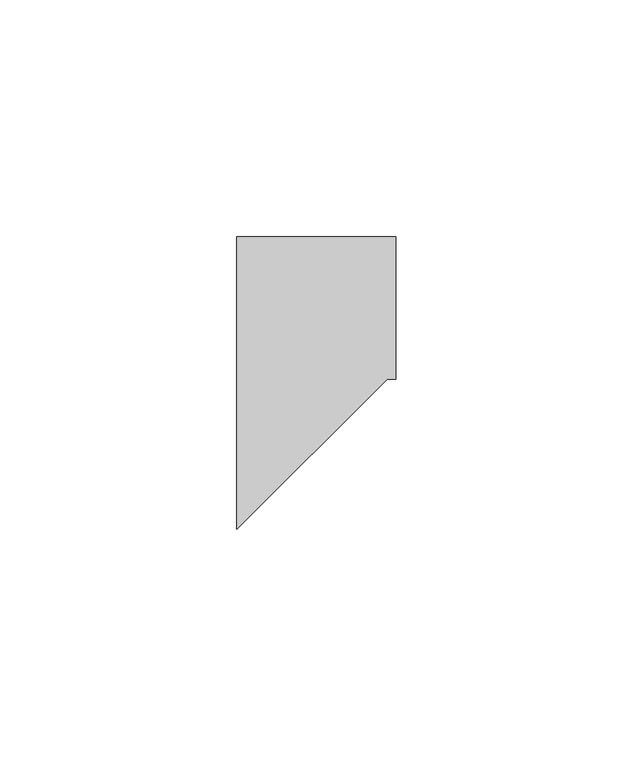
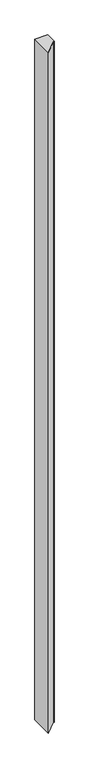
"""IFC4 building model written with IfcOpenShell, lengths in millimetres: plate geometry, ATELIERS 3S_EPURE CDB 200_VERTICAL : AZURO."""

from ifc_helpers import new_model, si_unit, origin, origin_with_axes, place, context, project, spatial, polyline, outline, extrude, source, transform, mapped, element, save


def plate_c4d21ec1(model_context):
    return source(origin(), model_context, "Body", "SweptSolid", [
        extrude(outline(polyline([(-16.7499998, 0.0), (16.7499998, 0.0), (16.7499998, -29.9980469), (14.9571153, -29.9980469), (-16.7499998, -61.705162), (-16.7499998, 0.0)])), origin_with_axes(), (0.0, 0.0, 1.0), 1900.0),
    ])


if __name__ == "__main__":
    model = new_model("IFC4")
    model_context = context("Model", 3, world=origin())
    ifc_project = project(units=[si_unit("LENGTHUNIT", "METRE", prefix="MILLI")], contexts=[model_context])
    site = spatial("IfcSite", under=ifc_project)
    building = spatial("IfcBuilding", under=site)
    placement = place(None, origin())
    plate_shape = plate_c4d21ec1(model_context)
    element("IfcPlate", 1, ObjectType="ATELIERS 3S_EPURE CDB 200_VERTICAL : AZURO", at=placement, inside=building, context=model_context, shape_type="MappedRepresentation", body=[
        mapped(plate_shape, transform((0.0, 0.0, 0.0), x_axis=(1.0, 0.0, 0.0), y_axis=(0.0, 1.0, 0.0), z_axis=(0.0, 0.0, 1.0))),
    ])
    save(model, "model.ifc")
